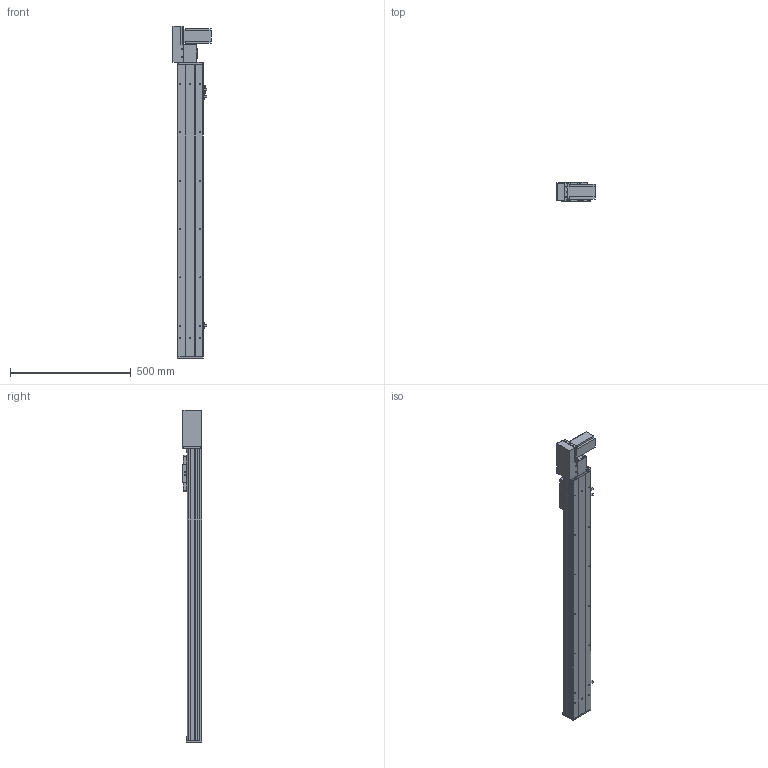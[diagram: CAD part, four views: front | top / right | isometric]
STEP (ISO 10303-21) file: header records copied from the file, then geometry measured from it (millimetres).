
FILE_DESCRIPTION (( 'STEP AP203' ), '1' );
FILE_NAME ('Y10CB-D90-S950-BL-P400W.STEP', '2020-02-15T07:52:58', ( '微软用户' ), ( '微软中国' ), 'SwSTEP 2.0', 'SolidWorks 2017', '' );
FILE_SCHEMA (( 'CONFIG_CONTROL_DESIGN' ));
Length unit declared in the file: millimetre
Products named in the file (18): 10CB-耜裔; san松下电机400不带刹车----; Y135C-陔俋离換覜結え-; 0B-源倛裔啣; Y100-135俋离換覜ん--; 0B-埴倛裔啣; 0CB-雄赽釱---; Y10CB-D90-S950-BL-P400W; Y俋欶BR----; 0Cb-俋欶---; 10CB-詩湍-; Y10B-々湍喘謫眊楊擘啣--; Y10CB- 掛极耜裔啣-毀---; Y10B--々湍喘謫眊--666; Y10C---詩湍揤啣; Y10B-耜蚾蟀諉啣----; 10CB9-掛极; 0B-萇儂楊擘啣
Assembly tree (21 placements, depth 2):
  Y10CB-D90-S950-BL-P400W
    0CB-雄赽釱---
    0Cb-俋欶---
    Y10B-々湍喘謫眊楊擘啣--
    Y10B--々湍喘謫眊--666
    Y10B-耜蚾蟀諉啣----
    0B-萇儂楊擘啣
    san松下电机400不带刹车----
    0B-源倛裔啣
    0B-埴倛裔啣
    Y俋欶BR----
    10CB-詩湍-
    Y10CB- 掛极耜裔啣-毀---  x2
    Y10C---詩湍揤啣  x2
    10CB9-掛极
    10CB-耜裔
    Y135C-陔俋离換覜結え-
    Y100-135俋离換覜ん--  x3
Bounding box: 157.5 x 80.5 x 1372.5 mm (x, y, z)
Volume: 3049374.9 mm3; surface area: 1368718.7 mm2
Topology: 21 solids, 21 shells, 990 faces, 2643 edges, 1730 vertices
Faces by surface type: cylinder 487, plane 479, cone 24
Entity records: 30904 total; most frequent: CARTESIAN_POINT 5469, DIRECTION 4994, ORIENTED_EDGE 4756, EDGE_CURVE 2378, AXIS2_PLACEMENT_3D 1785, VERTEX_POINT 1556, LINE 1424, VECTOR 1424
